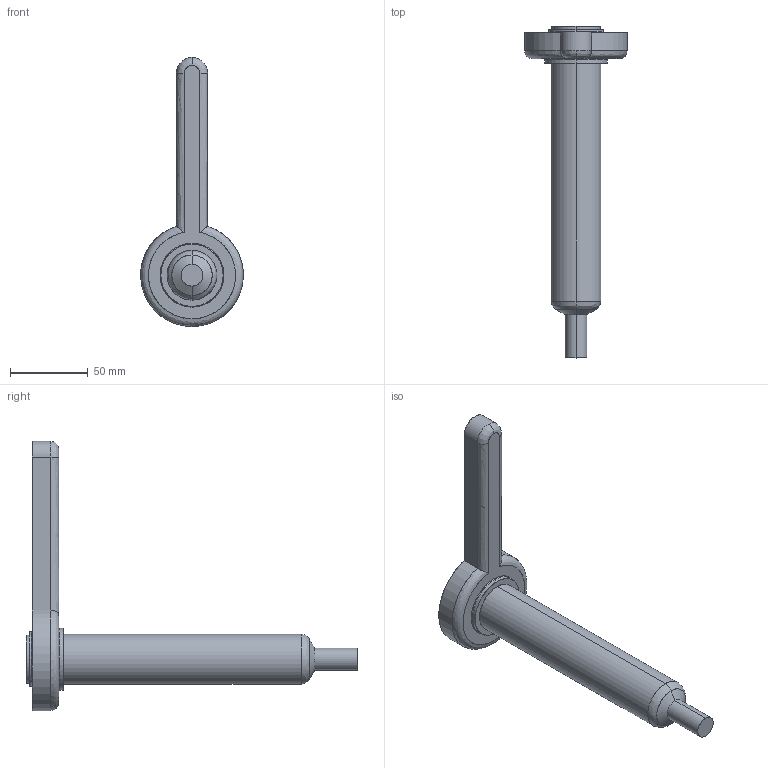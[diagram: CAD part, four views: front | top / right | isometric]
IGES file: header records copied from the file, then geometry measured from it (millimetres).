
Start section: SolidWorks IGES file using analytic representation for surfaces
Global section: file name: C:\Documents and Settings\ws-20\Desktop\TEM\Sede UGEP4104-S-A C-164 L-186 P-25.IGS; native system: SolidWorks 2012; preprocessor: SolidWorks 2012; author: ws-20; date: 120426.091400; units: millimetre
Bounding box: 65.98 x 213.42 x 173 mm (x, y, z)
Surface area: 34920.7 mm2 (no closed solid volume)
Topology: 0 solids, 0 shells, 34 faces, 786 edges, 786 vertices
Faces by surface type: revolution 21, bspline 13
